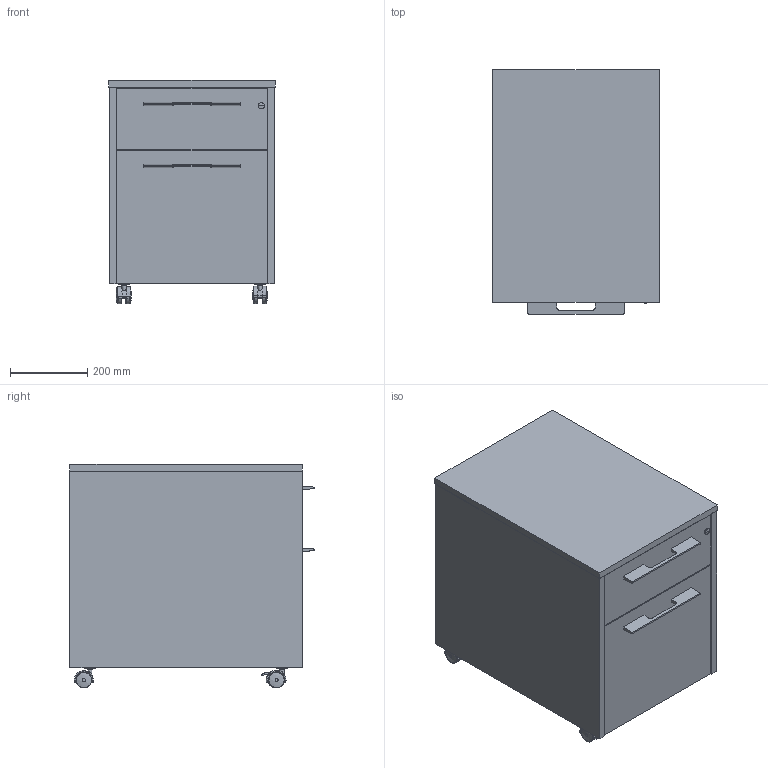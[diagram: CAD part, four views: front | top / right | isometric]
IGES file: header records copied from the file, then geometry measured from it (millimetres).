
Start section: SolidWorks IGES file using analytic representation for surfaces
Global section: file name: C:\Documents and Settings\mbiesiadecki\Moje dokumenty\MEBLE\SYSTEMY BIUROWE\6 VANCOUVER\VANCOUVER - Piktogramy\Vri-pikt-NT\Vr-KT02-t01.IGS; native system: SolidWorks 2011; preprocessor: SolidWorks 2011; author: mbiesiadecki; date: 110926.061407; units: millimetre
Bounding box: 430 x 630.1 x 576.98 mm (x, y, z)
Volume: 26773857.1 mm3; surface area: 3125376.4 mm2
Topology: 2 solids, 2 shells, 352 faces, 886 edges, 583 vertices
Faces by surface type: revolution 175, plane 143, bspline 34
